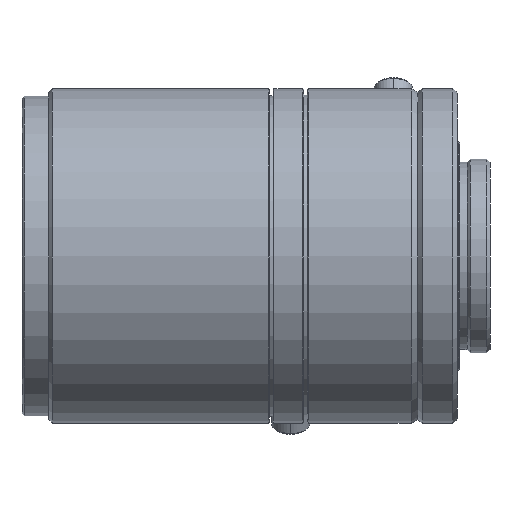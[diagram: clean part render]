
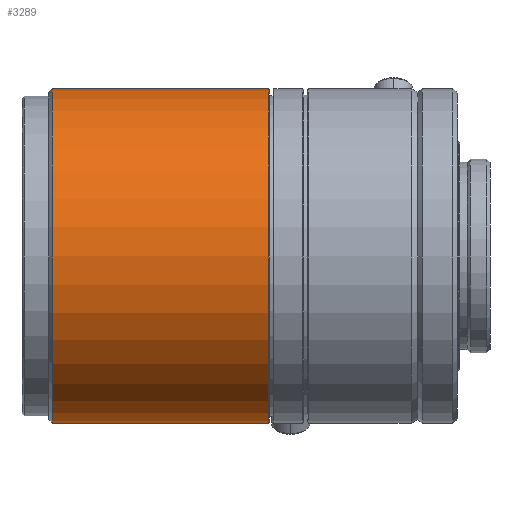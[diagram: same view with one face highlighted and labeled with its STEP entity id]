
A CAD part, front view. The second image highlights one B-rep face of the part: STEP entity #3289.
In plain terms, the highlighted cylindrical face has radius 22.003 mm (diameter 44.007 mm), a partial arc.
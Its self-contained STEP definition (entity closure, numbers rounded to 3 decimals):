
#155 = EDGE_CURVE ( 'NONE', #1662, #2201, #2188, .T. ) ;
#204 = CARTESIAN_POINT ( 'NONE',  ( -71.026, 0., 0. ) ) ;
#277 = AXIS2_PLACEMENT_3D ( 'NONE', #1078, #819, #563 ) ;
#297 = CARTESIAN_POINT ( 'NONE',  ( 0., 0., -22.003 ) ) ;
#366 = DIRECTION ( 'NONE',  ( 1., 0., 0. ) ) ;
#467 = DIRECTION ( 'NONE',  ( 0., 0., -1. ) ) ;
#563 = DIRECTION ( 'NONE',  ( 0., 0., -1. ) ) ;
#573 = DIRECTION ( 'NONE',  ( 1., 0., 0. ) ) ;
#726 = CARTESIAN_POINT ( 'NONE',  ( -42.626, 0., -22.003 ) ) ;
#734 = AXIS2_PLACEMENT_3D ( 'NONE', #204, #2005, #467 ) ;
#795 = ORIENTED_EDGE ( 'NONE', *, *, #2475, .F. ) ;
#808 = VERTEX_POINT ( 'NONE', #2362 ) ;
#819 = DIRECTION ( 'NONE',  ( 1., 0., 0. ) ) ;
#1030 = LINE ( 'NONE', #3162, #1644 ) ;
#1078 = CARTESIAN_POINT ( 'NONE',  ( 0., 0., 0. ) ) ;
#1206 = AXIS2_PLACEMENT_3D ( 'NONE', #2111, #573, #2369 ) ;
#1227 = CIRCLE ( 'NONE', #734, 22.003 ) ;
#1360 = FACE_OUTER_BOUND ( 'NONE', #2825, .T. ) ;
#1434 = LINE ( 'NONE', #297, #2032 ) ;
#1522 = ORIENTED_EDGE ( 'NONE', *, *, #2557, .T. ) ;
#1644 = VECTOR ( 'NONE', #366, 1000. ) ;
#1662 = VERTEX_POINT ( 'NONE', #2237 ) ;
#1865 = ORIENTED_EDGE ( 'NONE', *, *, #3281, .T. ) ;
#1906 = ORIENTED_EDGE ( 'NONE', *, *, #155, .F. ) ;
#2005 = DIRECTION ( 'NONE',  ( 1., 0., 0. ) ) ;
#2032 = VECTOR ( 'NONE', #2098, 1000. ) ;
#2098 = DIRECTION ( 'NONE',  ( 1., 0., 0. ) ) ;
#2111 = CARTESIAN_POINT ( 'NONE',  ( -42.626, 0., 0. ) ) ;
#2163 = VERTEX_POINT ( 'NONE', #2258 ) ;
#2188 = CIRCLE ( 'NONE', #1206, 22.003 ) ;
#2201 = VERTEX_POINT ( 'NONE', #726 ) ;
#2237 = CARTESIAN_POINT ( 'NONE',  ( -42.626, 0., 22.003 ) ) ;
#2258 = CARTESIAN_POINT ( 'NONE',  ( -71.026, 0., 22.003 ) ) ;
#2362 = CARTESIAN_POINT ( 'NONE',  ( -71.026, 0., -22.003 ) ) ;
#2369 = DIRECTION ( 'NONE',  ( 0., 0., -1. ) ) ;
#2475 = EDGE_CURVE ( 'NONE', #2163, #1662, #1030, .T. ) ;
#2557 = EDGE_CURVE ( 'NONE', #2163, #808, #1227, .T. ) ;
#2782 = CYLINDRICAL_SURFACE ( 'NONE', #277, 22.003 ) ;
#2825 = EDGE_LOOP ( 'NONE', ( #795, #1522, #1865, #1906 ) ) ;
#3162 = CARTESIAN_POINT ( 'NONE',  ( 0., 0., 22.003 ) ) ;
#3281 = EDGE_CURVE ( 'NONE', #808, #2201, #1434, .T. ) ;
#3289 = ADVANCED_FACE ( 'NONE', ( #1360 ), #2782, .T. ) ;
